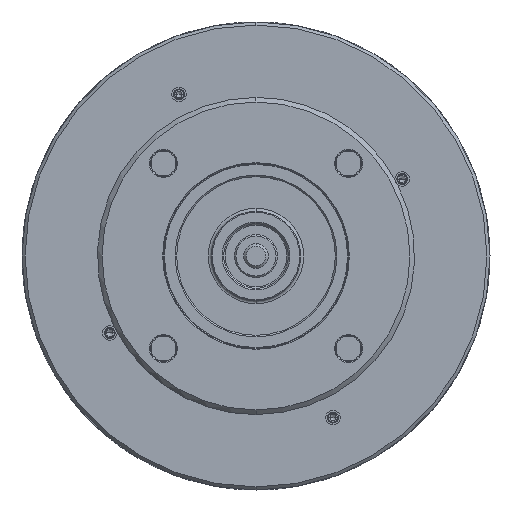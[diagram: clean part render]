
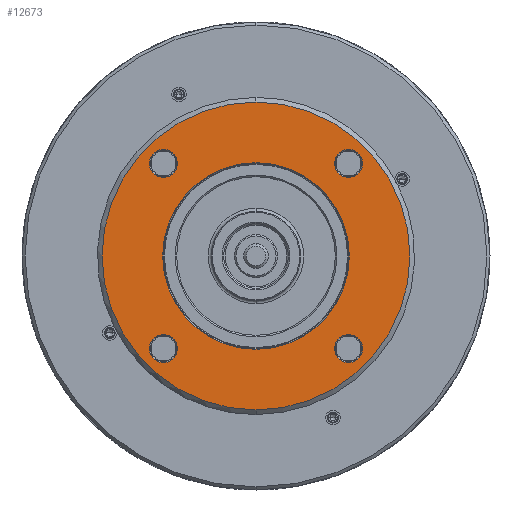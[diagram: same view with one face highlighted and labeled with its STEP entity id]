
A CAD part, left-side view. The second image highlights one B-rep face of the part: STEP entity #12673.
In plain terms, the highlighted planar face has unit normal (-1, 0, 0).
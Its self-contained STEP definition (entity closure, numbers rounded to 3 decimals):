
#619 = DIRECTION ( 'NONE',  ( 0., 0., -1. ) ) ;
#749 = AXIS2_PLACEMENT_3D ( 'NONE', #58554, #63290, #15344 ) ;
#1000 = CARTESIAN_POINT ( 'NONE',  ( -110., 60.104, -51.004 ) ) ;
#1330 = ORIENTED_EDGE ( 'NONE', *, *, #50866, .F. ) ;
#1534 = DIRECTION ( 'NONE',  ( 0., 0., 1. ) ) ;
#1763 = CIRCLE ( 'NONE', #30383, 9.1 ) ;
#2750 = ORIENTED_EDGE ( 'NONE', *, *, #53961, .F. ) ;
#3278 = CARTESIAN_POINT ( 'NONE',  ( -110., 0., 0. ) ) ;
#3598 = EDGE_LOOP ( 'NONE', ( #20403, #50153 ) ) ;
#4315 = AXIS2_PLACEMENT_3D ( 'NONE', #35645, #40744, #619 ) ;
#4389 = AXIS2_PLACEMENT_3D ( 'NONE', #3278, #31741, #27031 ) ;
#5354 = CIRCLE ( 'NONE', #28977, 9.1 ) ;
#5366 = DIRECTION ( 'NONE',  ( -1., 0., 0. ) ) ;
#6652 = ORIENTED_EDGE ( 'NONE', *, *, #76355, .T. ) ;
#6666 = CARTESIAN_POINT ( 'NONE',  ( -110., 60.104, -60.104 ) ) ;
#8525 = FACE_OUTER_BOUND ( 'NONE', #18618, .T. ) ;
#10050 = FACE_BOUND ( 'NONE', #25460, .T. ) ;
#10545 = EDGE_CURVE ( 'NONE', #66747, #58129, #1763, .T. ) ;
#10658 = DIRECTION ( 'NONE',  ( 1., 0., 0. ) ) ;
#10811 = CARTESIAN_POINT ( 'NONE',  ( -110., 70.711, -70.711 ) ) ;
#10996 = VERTEX_POINT ( 'NONE', #31417 ) ;
#11446 = CIRCLE ( 'NONE', #25133, 9.1 ) ;
#11881 = ORIENTED_EDGE ( 'NONE', *, *, #33015, .T. ) ;
#12046 = CARTESIAN_POINT ( 'NONE',  ( -110., 60.104, 60.104 ) ) ;
#12100 = CARTESIAN_POINT ( 'NONE',  ( -110., 0., 60.6 ) ) ;
#12673 = ADVANCED_FACE ( 'NONE', ( #61934, #8525, #26431, #73991, #58348, #10050 ), #33812, .T. ) ;
#13520 = EDGE_LOOP ( 'NONE', ( #60023, #1330 ) ) ;
#14921 = AXIS2_PLACEMENT_3D ( 'NONE', #62752, #68204, #67444 ) ;
#14984 = AXIS2_PLACEMENT_3D ( 'NONE', #10811, #5366, #16655 ) ;
#15344 = DIRECTION ( 'NONE',  ( 0., 0., -1. ) ) ;
#16655 = DIRECTION ( 'NONE',  ( 0., 0., 1. ) ) ;
#18009 = CIRCLE ( 'NONE', #44175, 100. ) ;
#18618 = EDGE_LOOP ( 'NONE', ( #73067, #2750 ) ) ;
#20403 = ORIENTED_EDGE ( 'NONE', *, *, #10545, .F. ) ;
#20577 = CARTESIAN_POINT ( 'NONE',  ( -110., 60.104, 69.204 ) ) ;
#21200 = VERTEX_POINT ( 'NONE', #75163 ) ;
#24070 = DIRECTION ( 'NONE',  ( 1., 0., 0. ) ) ;
#25133 = AXIS2_PLACEMENT_3D ( 'NONE', #34082, #57855, #36671 ) ;
#25384 = CIRCLE ( 'NONE', #68901, 9.1 ) ;
#25460 = EDGE_LOOP ( 'NONE', ( #32152, #6652 ) ) ;
#26431 = FACE_BOUND ( 'NONE', #32642, .T. ) ;
#27031 = DIRECTION ( 'NONE',  ( 0., 0., -1. ) ) ;
#27777 = EDGE_CURVE ( 'NONE', #59744, #59936, #52298, .T. ) ;
#28019 = CIRCLE ( 'NONE', #4389, 60.6 ) ;
#28977 = AXIS2_PLACEMENT_3D ( 'NONE', #30358, #71671, #71294 ) ;
#30358 = CARTESIAN_POINT ( 'NONE',  ( -110., -60.104, 60.104 ) ) ;
#30383 = AXIS2_PLACEMENT_3D ( 'NONE', #12046, #47528, #1534 ) ;
#30691 = CARTESIAN_POINT ( 'NONE',  ( -110., -60.104, 60.104 ) ) ;
#31417 = CARTESIAN_POINT ( 'NONE',  ( -110., 0., 100. ) ) ;
#31741 = DIRECTION ( 'NONE',  ( 1., 0., 0. ) ) ;
#31793 = DIRECTION ( 'NONE',  ( 1., 0., 0. ) ) ;
#32152 = ORIENTED_EDGE ( 'NONE', *, *, #27777, .T. ) ;
#32642 = EDGE_LOOP ( 'NONE', ( #11881, #47202 ) ) ;
#33015 = EDGE_CURVE ( 'NONE', #64578, #21200, #25384, .T. ) ;
#33502 = AXIS2_PLACEMENT_3D ( 'NONE', #44262, #31793, #68039 ) ;
#33812 = PLANE ( 'NONE',  #14984 ) ;
#34082 = CARTESIAN_POINT ( 'NONE',  ( -110., 60.104, 60.104 ) ) ;
#34143 = CARTESIAN_POINT ( 'NONE',  ( -110., -60.104, -51.004 ) ) ;
#34698 = VERTEX_POINT ( 'NONE', #59558 ) ;
#35645 = CARTESIAN_POINT ( 'NONE',  ( -110., 0., 0. ) ) ;
#36671 = DIRECTION ( 'NONE',  ( 0., 0., 1. ) ) ;
#37908 = CIRCLE ( 'NONE', #4315, 60.6 ) ;
#38439 = VERTEX_POINT ( 'NONE', #67028 ) ;
#39332 = ORIENTED_EDGE ( 'NONE', *, *, #48498, .T. ) ;
#39338 = CARTESIAN_POINT ( 'NONE',  ( -110., 0., -60.6 ) ) ;
#39975 = VERTEX_POINT ( 'NONE', #34143 ) ;
#40568 = CARTESIAN_POINT ( 'NONE',  ( -110., 0., 0. ) ) ;
#40744 = DIRECTION ( 'NONE',  ( 1., 0., 0. ) ) ;
#42355 = AXIS2_PLACEMENT_3D ( 'NONE', #30691, #24070, #59545 ) ;
#42546 = VERTEX_POINT ( 'NONE', #39338 ) ;
#44175 = AXIS2_PLACEMENT_3D ( 'NONE', #40568, #53040, #76799 ) ;
#44262 = CARTESIAN_POINT ( 'NONE',  ( -110., 0., 0. ) ) ;
#45544 = AXIS2_PLACEMENT_3D ( 'NONE', #73088, #76703, #55925 ) ;
#46120 = DIRECTION ( 'NONE',  ( 0., 0., -1. ) ) ;
#47202 = ORIENTED_EDGE ( 'NONE', *, *, #56632, .T. ) ;
#47528 = DIRECTION ( 'NONE',  ( -1., 0., 0. ) ) ;
#47841 = EDGE_CURVE ( 'NONE', #34698, #10996, #18009, .T. ) ;
#48498 = EDGE_CURVE ( 'NONE', #69666, #42546, #28019, .T. ) ;
#48594 = EDGE_CURVE ( 'NONE', #39975, #38439, #50500, .T. ) ;
#49347 = CARTESIAN_POINT ( 'NONE',  ( -110., -60.104, 51.004 ) ) ;
#50153 = ORIENTED_EDGE ( 'NONE', *, *, #60038, .F. ) ;
#50500 = CIRCLE ( 'NONE', #749, 9.1 ) ;
#50866 = EDGE_CURVE ( 'NONE', #38439, #39975, #53057, .T. ) ;
#52298 = CIRCLE ( 'NONE', #42355, 9.1 ) ;
#53040 = DIRECTION ( 'NONE',  ( 1., 0., 0. ) ) ;
#53057 = CIRCLE ( 'NONE', #45544, 9.1 ) ;
#53569 = CARTESIAN_POINT ( 'NONE',  ( -110., 60.104, 51.004 ) ) ;
#53961 = EDGE_CURVE ( 'NONE', #10996, #34698, #68350, .T. ) ;
#55925 = DIRECTION ( 'NONE',  ( 0., 0., -1. ) ) ;
#56632 = EDGE_CURVE ( 'NONE', #21200, #64578, #70938, .T. ) ;
#57550 = EDGE_LOOP ( 'NONE', ( #39332, #73176 ) ) ;
#57855 = DIRECTION ( 'NONE',  ( -1., 0., 0. ) ) ;
#58129 = VERTEX_POINT ( 'NONE', #20577 ) ;
#58348 = FACE_BOUND ( 'NONE', #3598, .T. ) ;
#58554 = CARTESIAN_POINT ( 'NONE',  ( -110., -60.104, -60.104 ) ) ;
#59545 = DIRECTION ( 'NONE',  ( 0., 0., 1. ) ) ;
#59558 = CARTESIAN_POINT ( 'NONE',  ( -110., 0., -100. ) ) ;
#59744 = VERTEX_POINT ( 'NONE', #49347 ) ;
#59936 = VERTEX_POINT ( 'NONE', #68040 ) ;
#60023 = ORIENTED_EDGE ( 'NONE', *, *, #48594, .F. ) ;
#60038 = EDGE_CURVE ( 'NONE', #58129, #66747, #11446, .T. ) ;
#61934 = FACE_BOUND ( 'NONE', #57550, .T. ) ;
#62752 = CARTESIAN_POINT ( 'NONE',  ( -110., 60.104, -60.104 ) ) ;
#63290 = DIRECTION ( 'NONE',  ( -1., 0., 0. ) ) ;
#64471 = EDGE_CURVE ( 'NONE', #42546, #69666, #37908, .T. ) ;
#64578 = VERTEX_POINT ( 'NONE', #1000 ) ;
#66747 = VERTEX_POINT ( 'NONE', #53569 ) ;
#67028 = CARTESIAN_POINT ( 'NONE',  ( -110., -60.104, -69.204 ) ) ;
#67444 = DIRECTION ( 'NONE',  ( 0., 0., -1. ) ) ;
#68039 = DIRECTION ( 'NONE',  ( 0., 0., -1. ) ) ;
#68040 = CARTESIAN_POINT ( 'NONE',  ( -110., -60.104, 69.204 ) ) ;
#68204 = DIRECTION ( 'NONE',  ( 1., 0., 0. ) ) ;
#68350 = CIRCLE ( 'NONE', #33502, 100. ) ;
#68901 = AXIS2_PLACEMENT_3D ( 'NONE', #6666, #10658, #46120 ) ;
#69666 = VERTEX_POINT ( 'NONE', #12100 ) ;
#70938 = CIRCLE ( 'NONE', #14921, 9.1 ) ;
#71294 = DIRECTION ( 'NONE',  ( 0., 0., 1. ) ) ;
#71671 = DIRECTION ( 'NONE',  ( 1., 0., 0. ) ) ;
#73067 = ORIENTED_EDGE ( 'NONE', *, *, #47841, .F. ) ;
#73088 = CARTESIAN_POINT ( 'NONE',  ( -110., -60.104, -60.104 ) ) ;
#73176 = ORIENTED_EDGE ( 'NONE', *, *, #64471, .T. ) ;
#73991 = FACE_BOUND ( 'NONE', #13520, .T. ) ;
#75163 = CARTESIAN_POINT ( 'NONE',  ( -110., 60.104, -69.204 ) ) ;
#76355 = EDGE_CURVE ( 'NONE', #59936, #59744, #5354, .T. ) ;
#76703 = DIRECTION ( 'NONE',  ( -1., 0., 0. ) ) ;
#76799 = DIRECTION ( 'NONE',  ( 0., 0., -1. ) ) ;
